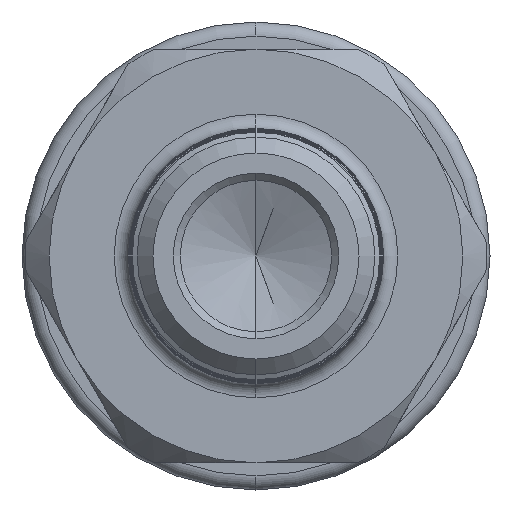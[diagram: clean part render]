
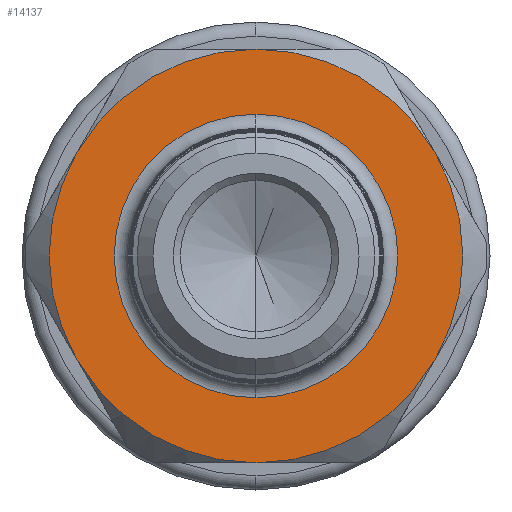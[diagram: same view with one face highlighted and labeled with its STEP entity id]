
A CAD part, left-side view. The second image highlights one B-rep face of the part: STEP entity #14137.
In plain terms, the highlighted planar face has unit normal (-1, 0, 0).
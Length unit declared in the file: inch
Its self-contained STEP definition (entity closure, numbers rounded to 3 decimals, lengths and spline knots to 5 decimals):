
#424 = AXIS2_PLACEMENT_3D ( 'NONE', #945, #6608, #4526 ) ;
#678 = CARTESIAN_POINT ( 'NONE',  ( 0.585, 0., 0. ) ) ;
#945 = CARTESIAN_POINT ( 'NONE',  ( 0.585, 0., 0. ) ) ;
#1417 = CARTESIAN_POINT ( 'NONE',  ( 0.585, 0., -0.3 ) ) ;
#1500 = ORIENTED_EDGE ( 'NONE', *, *, #10237, .T. ) ;
#1634 = DIRECTION ( 'NONE',  ( 0., 0., 1. ) ) ;
#1708 = FACE_OUTER_BOUND ( 'NONE', #10332, .T. ) ;
#1823 = CIRCLE ( 'NONE', #10378, 0.4375 ) ;
#1876 = DIRECTION ( 'NONE',  ( -1., 0., 0. ) ) ;
#2046 = ORIENTED_EDGE ( 'NONE', *, *, #14215, .T. ) ;
#2885 = DIRECTION ( 'NONE',  ( -1., 0., 0. ) ) ;
#2896 = CIRCLE ( 'NONE', #14353, 0.4375 ) ;
#2897 = AXIS2_PLACEMENT_3D ( 'NONE', #7701, #1876, #14709 ) ;
#3128 = CARTESIAN_POINT ( 'NONE',  ( 0.585, 0., -0.4375 ) ) ;
#3239 = VERTEX_POINT ( 'NONE', #8360 ) ;
#4232 = VERTEX_POINT ( 'NONE', #3128 ) ;
#4352 = CARTESIAN_POINT ( 'NONE',  ( 0.585, 0., 0. ) ) ;
#4419 = DIRECTION ( 'NONE',  ( 0., 0., 1. ) ) ;
#4526 = DIRECTION ( 'NONE',  ( 0., 0., 1. ) ) ;
#4549 = CIRCLE ( 'NONE', #14284, 0.4375 ) ;
#4779 = EDGE_CURVE ( 'NONE', #4232, #3239, #1823, .T. ) ;
#5154 = VERTEX_POINT ( 'NONE', #9071 ) ;
#5269 = VERTEX_POINT ( 'NONE', #1417 ) ;
#5761 = CARTESIAN_POINT ( 'NONE',  ( 0.585, 0., 0. ) ) ;
#5769 = EDGE_CURVE ( 'NONE', #11695, #4232, #4549, .T. ) ;
#5822 = CARTESIAN_POINT ( 'NONE',  ( 0.585, -0.37889, 0.21875 ) ) ;
#6378 = PLANE ( 'NONE',  #9510 ) ;
#6437 = ORIENTED_EDGE ( 'NONE', *, *, #4779, .T. ) ;
#6509 = CIRCLE ( 'NONE', #12627, 0.3 ) ;
#6537 = CARTESIAN_POINT ( 'NONE',  ( 0.585, 0., 0. ) ) ;
#6608 = DIRECTION ( 'NONE',  ( -1., 0., 0. ) ) ;
#6646 = DIRECTION ( 'NONE',  ( -1., 0., 0. ) ) ;
#6830 = ORIENTED_EDGE ( 'NONE', *, *, #13957, .T. ) ;
#7005 = CARTESIAN_POINT ( 'NONE',  ( 0.585, 0.37889, -0.21875 ) ) ;
#7084 = CIRCLE ( 'NONE', #2897, 0.4375 ) ;
#7440 = VERTEX_POINT ( 'NONE', #5822 ) ;
#7454 = CARTESIAN_POINT ( 'NONE',  ( 0.585, 0., 0. ) ) ;
#7640 = DIRECTION ( 'NONE',  ( 0., 0., 1. ) ) ;
#7701 = CARTESIAN_POINT ( 'NONE',  ( 0.585, 0., 0. ) ) ;
#7739 = EDGE_CURVE ( 'NONE', #12189, #5154, #13130, .T. ) ;
#7799 = CARTESIAN_POINT ( 'NONE',  ( 0.585, 0., 0. ) ) ;
#7930 = EDGE_CURVE ( 'NONE', #5154, #11695, #2896, .T. ) ;
#8293 = DIRECTION ( 'NONE',  ( 0., 0., 1. ) ) ;
#8304 = CIRCLE ( 'NONE', #11689, 0.3 ) ;
#8360 = CARTESIAN_POINT ( 'NONE',  ( 0.585, -0.37889, -0.21875 ) ) ;
#8517 = AXIS2_PLACEMENT_3D ( 'NONE', #7799, #6646, #4419 ) ;
#9071 = CARTESIAN_POINT ( 'NONE',  ( 0.585, 0.37889, 0.21875 ) ) ;
#9508 = DIRECTION ( 'NONE',  ( -1., 0., 0. ) ) ;
#9510 = AXIS2_PLACEMENT_3D ( 'NONE', #6537, #13229, #1634 ) ;
#10237 = EDGE_CURVE ( 'NONE', #5269, #14712, #6509, .T. ) ;
#10276 = CARTESIAN_POINT ( 'NONE',  ( 0.585, 0., 0. ) ) ;
#10332 = EDGE_LOOP ( 'NONE', ( #6437, #6830, #11172, #12160, #12114, #12963 ) ) ;
#10378 = AXIS2_PLACEMENT_3D ( 'NONE', #678, #2885, #7640 ) ;
#10424 = DIRECTION ( 'NONE',  ( 1., 0., 0. ) ) ;
#10552 = CARTESIAN_POINT ( 'NONE',  ( 0.585, 0., 0.4375 ) ) ;
#11172 = ORIENTED_EDGE ( 'NONE', *, *, #11892, .T. ) ;
#11259 = FACE_BOUND ( 'NONE', #12876, .T. ) ;
#11689 = AXIS2_PLACEMENT_3D ( 'NONE', #10276, #10424, #13615 ) ;
#11695 = VERTEX_POINT ( 'NONE', #7005 ) ;
#11892 = EDGE_CURVE ( 'NONE', #7440, #12189, #15059, .T. ) ;
#12089 = DIRECTION ( 'NONE',  ( 0., 0., 1. ) ) ;
#12114 = ORIENTED_EDGE ( 'NONE', *, *, #7930, .T. ) ;
#12160 = ORIENTED_EDGE ( 'NONE', *, *, #7739, .T. ) ;
#12189 = VERTEX_POINT ( 'NONE', #10552 ) ;
#12627 = AXIS2_PLACEMENT_3D ( 'NONE', #4352, #13802, #13653 ) ;
#12876 = EDGE_LOOP ( 'NONE', ( #2046, #1500 ) ) ;
#12963 = ORIENTED_EDGE ( 'NONE', *, *, #5769, .T. ) ;
#13130 = CIRCLE ( 'NONE', #8517, 0.4375 ) ;
#13229 = DIRECTION ( 'NONE',  ( -1., 0., 0. ) ) ;
#13457 = DIRECTION ( 'NONE',  ( -1., 0., 0. ) ) ;
#13615 = DIRECTION ( 'NONE',  ( 0., 0., 1. ) ) ;
#13653 = DIRECTION ( 'NONE',  ( 0., 0., 1. ) ) ;
#13802 = DIRECTION ( 'NONE',  ( 1., 0., 0. ) ) ;
#13957 = EDGE_CURVE ( 'NONE', #3239, #7440, #7084, .T. ) ;
#14137 = ADVANCED_FACE ( 'NONE', ( #11259, #1708 ), #6378, .T. ) ;
#14215 = EDGE_CURVE ( 'NONE', #14712, #5269, #8304, .T. ) ;
#14284 = AXIS2_PLACEMENT_3D ( 'NONE', #5761, #9508, #8293 ) ;
#14353 = AXIS2_PLACEMENT_3D ( 'NONE', #7454, #13457, #12089 ) ;
#14709 = DIRECTION ( 'NONE',  ( 0., 0., 1. ) ) ;
#14712 = VERTEX_POINT ( 'NONE', #14902 ) ;
#14902 = CARTESIAN_POINT ( 'NONE',  ( 0.585, 0., 0.3 ) ) ;
#15059 = CIRCLE ( 'NONE', #424, 0.4375 ) ;
